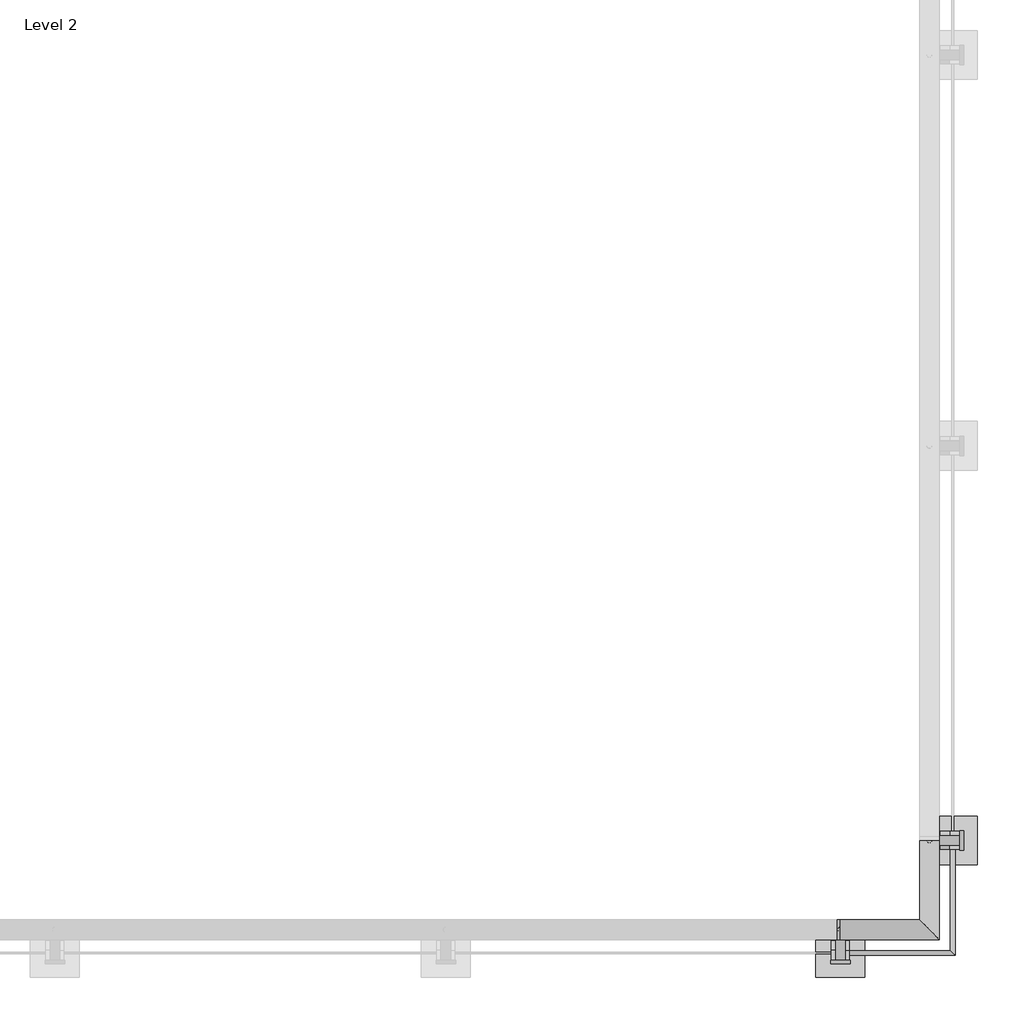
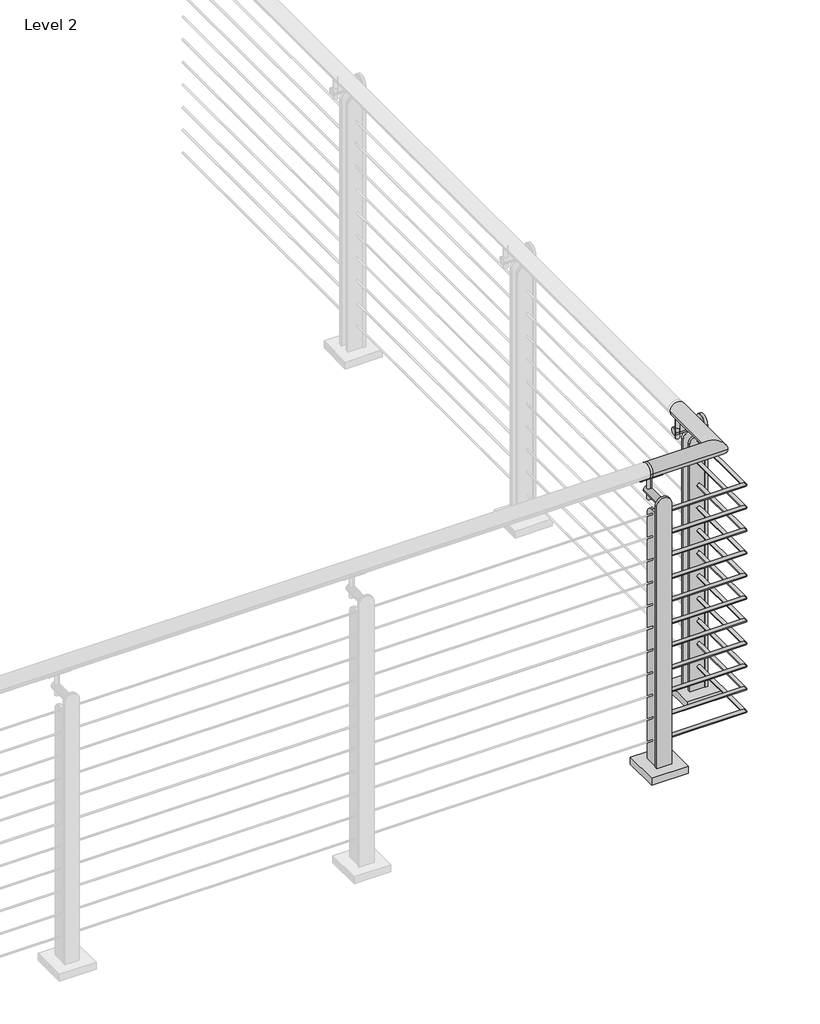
# One storey, part 6 of 12: 1 railing.
"""IFC4 building model written with IfcOpenShell, lengths in millimetres."""

from ifc_helpers import new_model, si_unit, point, frame, frame_2d, origin, place, context, project, spatial, polyline, circle_curve, ellipse_curve, trimmed, segment, composite_curve, outline, extrude, element, save
from ifc_brep_helpers import plane_surface, cylinder_surface, advanced_brep

model = new_model("IFC4")

# Units and contexts
model_context = context("Model", 3, world=origin())
ifc_project = project(units=[si_unit("LENGTHUNIT", "METRE", prefix="MILLI")], contexts=[model_context])

# Site, building, storey
site = spatial("IfcSite", under=ifc_project)
building = spatial("IfcBuilding", under=site)
storey = spatial("IfcBuildingStorey", under=building, Name="Level 2", Elevation=3048.0)

# Railing
placement = place(None, origin())
element("IfcRailing", 1, ObjectType="VIVA-TEE-Cable-Floor Mount-Corner", at=placement, inside=storey, context=model_context, shape_type="SolidModel", body=[
    advanced_brep(
    [(-4183.8021474, -35418.856782, 4102.1), (-4183.8021474, -35469.656782, 4102.1), (-3926.6271474, -35469.656782, 4102.1), (-3977.4271474, -35418.856782, 4102.1), (-4193.5313409, -35469.656782, 4102.1), (-4193.5313409, -35418.856782, 4102.1), (-3926.6271474, -35212.481782, 4102.1), (-3977.4271474, -35212.481782, 4102.1)],
    [
        (0, 1, circle_curve(frame((-4183.8021474, -35444.256782, 4102.1), z_axis=(1.0, 0.0, 0.0), x_axis=(0.0, 1.0, 0.0)), 25.4)),
        (1, 2),
        (2, 3, ellipse_curve(frame((-3952.0271474, -35444.256782, 4102.1), z_axis=(-0.7071067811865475, -0.7071067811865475, 0.0), x_axis=(-0.7071067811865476, 0.7071067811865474, 0.0)), 35.9210245, 25.4)),
        (3, 0),
        (1, 0, circle_curve(frame((-4183.8021474, -35444.256782, 4102.1), z_axis=(1.0, 0.0, 0.0), x_axis=(0.0, 1.0, 0.0)), 25.4)),
        (3, 2, ellipse_curve(frame((-3952.0271474, -35444.256782, 4102.1), z_axis=(-0.7071067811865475, -0.7071067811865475, 0.0), x_axis=(-0.7071067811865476, 0.7071067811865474, 0.0)), 35.9210245, 25.4)),
        (4, 5, circle_curve(frame((-4193.5313409, -35444.256782, 4102.1), z_axis=(-1.0, 0.0, 0.0), x_axis=(0.0, 1.0, 0.0)), 25.4)),
        (5, 4, circle_curve(frame((-4193.5313409, -35444.256782, 4102.1), z_axis=(-1.0, 0.0, 0.0), x_axis=(0.0, 1.0, 0.0)), 25.4)),
        (4, 1),
        (0, 5),
        (6, 7, circle_curve(frame((-3952.0271474, -35212.481782, 4102.1), z_axis=(0.0, 1.0, 0.0), x_axis=(-1.0, 0.0, 0.0)), 25.4)),
        (7, 6, circle_curve(frame((-3952.0271474, -35212.481782, 4102.1), z_axis=(0.0, 1.0, 0.0), x_axis=(-1.0, 0.0, 0.0)), 25.4)),
        (2, 6),
        (7, 3),
    ],
    [
        cylinder_surface(frame((-4183.8021474, -35444.256782, 4102.1), z_axis=(-1.0, 0.0, 0.0), x_axis=(0.0, 1.0, 0.0)), 25.4),
        plane_surface(frame((-4193.5313409, -35444.256782, 4127.5), z_axis=(-1.0, 0.0, 0.0), x_axis=(0.0, 1.0, 0.0))),
        cylinder_surface(frame((-4193.5313409, -35444.256782, 4102.1), z_axis=(-1.0, 0.0, 0.0), x_axis=(0.0, 1.0, 0.0)), 25.4),
        plane_surface(frame((-3952.0271474, -35212.481782, 4127.5), z_axis=(0.0, 1.0, 0.0), x_axis=(0.0, 0.0, 1.0))),
        cylinder_surface(frame((-3952.0271474, -35444.256782, 4102.1), z_axis=(0.0, -1.0, 0.0), x_axis=(-1.0, 0.0, 0.0)), 25.4),
    ],
    [
        (0, [[1, 2, 3, 4]]),
        (0, [[5, -4, 6, -2]]),
        (1, [[7, 8]]),
        (2, [[-7, 9, -1, 10]]),
        (2, [[-8, -10, -5, -9]]),
        (3, [[11, 12]]),
        (4, [[-3, 13, -12, 14]]),
        (4, [[-6, -14, -11, -13]]),
    ],
),
    advanced_brep(
    [(-4183.8021474, -35498.231782, 3981.45), (-4183.8021474, -35510.931782, 3981.45), (-3898.0521474, -35498.231782, 3981.45), (-3885.3521474, -35510.931782, 3981.45), (-3898.0521474, -35212.481782, 3981.45), (-3885.3521474, -35212.481782, 3981.45)],
    [
        (0, 1, circle_curve(frame((-4183.8021474, -35504.581782, 3981.45), z_axis=(-1.0, 0.0, 0.0), x_axis=(0.0, -1.0, 0.0)), 6.35)),
        (1, 0, circle_curve(frame((-4183.8021474, -35504.581782, 3981.45), z_axis=(-1.0, 0.0, 0.0), x_axis=(0.0, -1.0, 0.0)), 6.35)),
        (0, 2),
        (2, 3, ellipse_curve(frame((-3891.7021474, -35504.581782, 3981.45), z_axis=(-0.7071067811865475, -0.7071067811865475, 0.0), x_axis=(-0.7071067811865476, 0.7071067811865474, 0.0)), 8.9802561, 6.35)),
        (3, 1),
        (3, 2, ellipse_curve(frame((-3891.7021474, -35504.581782, 3981.45), z_axis=(-0.7071067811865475, -0.7071067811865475, 0.0), x_axis=(-0.7071067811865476, 0.7071067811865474, 0.0)), 8.9802561, 6.35)),
        (4, 5, circle_curve(frame((-3891.7021474, -35212.481782, 3981.45), z_axis=(0.0, 1.0, 0.0), x_axis=(1.0, 0.0, 0.0)), 6.35)),
        (5, 4, circle_curve(frame((-3891.7021474, -35212.481782, 3981.45), z_axis=(0.0, 1.0, 0.0), x_axis=(1.0, 0.0, 0.0)), 6.35)),
        (2, 4),
        (5, 3),
    ],
    [
        plane_surface(frame((-4183.8021474, -35504.581782, 3987.8), z_axis=(-1.0, 0.0, 0.0), x_axis=(0.0, 1.0, 0.0))),
        cylinder_surface(frame((-4183.8021474, -35504.581782, 3981.45), z_axis=(-1.0, 0.0, 0.0), x_axis=(0.0, -1.0, 0.0)), 6.35),
        plane_surface(frame((-3891.7021474, -35212.481782, 3987.8), z_axis=(0.0, 1.0, 0.0), x_axis=(0.0, 0.0, 1.0))),
        cylinder_surface(frame((-3891.7021474, -35504.581782, 3981.45), z_axis=(0.0, -1.0, 0.0), x_axis=(1.0, 0.0, 0.0)), 6.35),
    ],
    [
        (0, [[1, 2]]),
        (1, [[-1, 3, 4, 5]]),
        (1, [[-2, -5, 6, -3]]),
        (2, [[7, 8]]),
        (3, [[-4, 9, -8, 10]]),
        (3, [[-6, -10, -7, -9]]),
    ],
),
    advanced_brep(
    [(-4183.8021474, -35498.231782, 3898.9), (-4183.8021474, -35510.931782, 3898.9), (-3898.0521474, -35498.231782, 3898.9), (-3885.3521474, -35510.931782, 3898.9), (-3898.0521474, -35212.481782, 3898.9), (-3885.3521474, -35212.481782, 3898.9)],
    [
        (0, 1, circle_curve(frame((-4183.8021474, -35504.581782, 3898.9), z_axis=(-1.0, 0.0, 0.0), x_axis=(0.0, -1.0, 0.0)), 6.35)),
        (1, 0, circle_curve(frame((-4183.8021474, -35504.581782, 3898.9), z_axis=(-1.0, 0.0, 0.0), x_axis=(0.0, -1.0, 0.0)), 6.35)),
        (0, 2),
        (2, 3, ellipse_curve(frame((-3891.7021474, -35504.581782, 3898.9), z_axis=(-0.7071067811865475, -0.7071067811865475, 0.0), x_axis=(-0.7071067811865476, 0.7071067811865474, 0.0)), 8.9802561, 6.35)),
        (3, 1),
        (3, 2, ellipse_curve(frame((-3891.7021474, -35504.581782, 3898.9), z_axis=(-0.7071067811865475, -0.7071067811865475, 0.0), x_axis=(-0.7071067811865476, 0.7071067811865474, 0.0)), 8.9802561, 6.35)),
        (4, 5, circle_curve(frame((-3891.7021474, -35212.481782, 3898.9), z_axis=(0.0, 1.0, 0.0), x_axis=(1.0, 0.0, 0.0)), 6.35)),
        (5, 4, circle_curve(frame((-3891.7021474, -35212.481782, 3898.9), z_axis=(0.0, 1.0, 0.0), x_axis=(1.0, 0.0, 0.0)), 6.35)),
        (2, 4),
        (5, 3),
    ],
    [
        plane_surface(frame((-4183.8021474, -35504.581782, 3905.25), z_axis=(-1.0, 0.0, 0.0), x_axis=(0.0, 1.0, 0.0))),
        cylinder_surface(frame((-4183.8021474, -35504.581782, 3898.9), z_axis=(-1.0, 0.0, 0.0), x_axis=(0.0, -1.0, 0.0)), 6.35),
        plane_surface(frame((-3891.7021474, -35212.481782, 3905.25), z_axis=(0.0, 1.0, 0.0), x_axis=(0.0, 0.0, 1.0))),
        cylinder_surface(frame((-3891.7021474, -35504.581782, 3898.9), z_axis=(0.0, -1.0, 0.0), x_axis=(1.0, 0.0, 0.0)), 6.35),
    ],
    [
        (0, [[1, 2]]),
        (1, [[-1, 3, 4, 5]]),
        (1, [[-2, -5, 6, -3]]),
        (2, [[7, 8]]),
        (3, [[-4, 9, -8, 10]]),
        (3, [[-6, -10, -7, -9]]),
    ],
),
    advanced_brep(
    [(-4183.8021474, -35498.231782, 3816.35), (-4183.8021474, -35510.931782, 3816.35), (-3898.0521474, -35498.231782, 3816.35), (-3885.3521474, -35510.931782, 3816.35), (-3898.0521474, -35212.481782, 3816.35), (-3885.3521474, -35212.481782, 3816.35)],
    [
        (0, 1, circle_curve(frame((-4183.8021474, -35504.581782, 3816.35), z_axis=(-1.0, 0.0, 0.0), x_axis=(0.0, -1.0, 0.0)), 6.35)),
        (1, 0, circle_curve(frame((-4183.8021474, -35504.581782, 3816.35), z_axis=(-1.0, 0.0, 0.0), x_axis=(0.0, -1.0, 0.0)), 6.35)),
        (0, 2),
        (2, 3, ellipse_curve(frame((-3891.7021474, -35504.581782, 3816.35), z_axis=(-0.7071067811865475, -0.7071067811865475, 0.0), x_axis=(-0.7071067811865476, 0.7071067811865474, 0.0)), 8.9802561, 6.35)),
        (3, 1),
        (3, 2, ellipse_curve(frame((-3891.7021474, -35504.581782, 3816.35), z_axis=(-0.7071067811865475, -0.7071067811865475, 0.0), x_axis=(-0.7071067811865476, 0.7071067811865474, 0.0)), 8.9802561, 6.35)),
        (4, 5, circle_curve(frame((-3891.7021474, -35212.481782, 3816.35), z_axis=(0.0, 1.0, 0.0), x_axis=(1.0, 0.0, 0.0)), 6.35)),
        (5, 4, circle_curve(frame((-3891.7021474, -35212.481782, 3816.35), z_axis=(0.0, 1.0, 0.0), x_axis=(1.0, 0.0, 0.0)), 6.35)),
        (2, 4),
        (5, 3),
    ],
    [
        plane_surface(frame((-4183.8021474, -35504.581782, 3822.7), z_axis=(-1.0, 0.0, 0.0), x_axis=(0.0, 1.0, 0.0))),
        cylinder_surface(frame((-4183.8021474, -35504.581782, 3816.35), z_axis=(-1.0, 0.0, 0.0), x_axis=(0.0, -1.0, 0.0)), 6.35),
        plane_surface(frame((-3891.7021474, -35212.481782, 3822.7), z_axis=(0.0, 1.0, 0.0), x_axis=(0.0, 0.0, 1.0))),
        cylinder_surface(frame((-3891.7021474, -35504.581782, 3816.35), z_axis=(0.0, -1.0, 0.0), x_axis=(1.0, 0.0, 0.0)), 6.35),
    ],
    [
        (0, [[1, 2]]),
        (1, [[-1, 3, 4, 5]]),
        (1, [[-2, -5, 6, -3]]),
        (2, [[7, 8]]),
        (3, [[-4, 9, -8, 10]]),
        (3, [[-6, -10, -7, -9]]),
    ],
),
    advanced_brep(
    [(-4183.8021474, -35498.231782, 3733.8), (-4183.8021474, -35510.931782, 3733.8), (-3898.0521474, -35498.231782, 3733.8), (-3885.3521474, -35510.931782, 3733.8), (-3898.0521474, -35212.481782, 3733.8), (-3885.3521474, -35212.481782, 3733.8)],
    [
        (0, 1, circle_curve(frame((-4183.8021474, -35504.581782, 3733.8), z_axis=(-1.0, 0.0, 0.0), x_axis=(0.0, -1.0, 0.0)), 6.35)),
        (1, 0, circle_curve(frame((-4183.8021474, -35504.581782, 3733.8), z_axis=(-1.0, 0.0, 0.0), x_axis=(0.0, -1.0, 0.0)), 6.35)),
        (0, 2),
        (2, 3, ellipse_curve(frame((-3891.7021474, -35504.581782, 3733.8), z_axis=(-0.7071067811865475, -0.7071067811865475, 0.0), x_axis=(-0.7071067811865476, 0.7071067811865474, 0.0)), 8.9802561, 6.35)),
        (3, 1),
        (3, 2, ellipse_curve(frame((-3891.7021474, -35504.581782, 3733.8), z_axis=(-0.7071067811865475, -0.7071067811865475, 0.0), x_axis=(-0.7071067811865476, 0.7071067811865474, 0.0)), 8.9802561, 6.35)),
        (4, 5, circle_curve(frame((-3891.7021474, -35212.481782, 3733.8), z_axis=(0.0, 1.0, 0.0), x_axis=(1.0, 0.0, 0.0)), 6.35)),
        (5, 4, circle_curve(frame((-3891.7021474, -35212.481782, 3733.8), z_axis=(0.0, 1.0, 0.0), x_axis=(1.0, 0.0, 0.0)), 6.35)),
        (2, 4),
        (5, 3),
    ],
    [
        plane_surface(frame((-4183.8021474, -35504.581782, 3740.15), z_axis=(-1.0, 0.0, 0.0), x_axis=(0.0, 1.0, 0.0))),
        cylinder_surface(frame((-4183.8021474, -35504.581782, 3733.8), z_axis=(-1.0, 0.0, 0.0), x_axis=(0.0, -1.0, 0.0)), 6.35),
        plane_surface(frame((-3891.7021474, -35212.481782, 3740.15), z_axis=(0.0, 1.0, 0.0), x_axis=(0.0, 0.0, 1.0))),
        cylinder_surface(frame((-3891.7021474, -35504.581782, 3733.8), z_axis=(0.0, -1.0, 0.0), x_axis=(1.0, 0.0, 0.0)), 6.35),
    ],
    [
        (0, [[1, 2]]),
        (1, [[-1, 3, 4, 5]]),
        (1, [[-2, -5, 6, -3]]),
        (2, [[7, 8]]),
        (3, [[-4, 9, -8, 10]]),
        (3, [[-6, -10, -7, -9]]),
    ],
),
    advanced_brep(
    [(-4183.8021474, -35498.231782, 3651.25), (-4183.8021474, -35510.931782, 3651.25), (-3898.0521474, -35498.231782, 3651.25), (-3885.3521474, -35510.931782, 3651.25), (-3898.0521474, -35212.481782, 3651.25), (-3885.3521474, -35212.481782, 3651.25)],
    [
        (0, 1, circle_curve(frame((-4183.8021474, -35504.581782, 3651.25), z_axis=(-1.0, 0.0, 0.0), x_axis=(0.0, -1.0, 0.0)), 6.35)),
        (1, 0, circle_curve(frame((-4183.8021474, -35504.581782, 3651.25), z_axis=(-1.0, 0.0, 0.0), x_axis=(0.0, -1.0, 0.0)), 6.35)),
        (0, 2),
        (2, 3, ellipse_curve(frame((-3891.7021474, -35504.581782, 3651.25), z_axis=(-0.7071067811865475, -0.7071067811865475, 0.0), x_axis=(-0.7071067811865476, 0.7071067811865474, 0.0)), 8.9802561, 6.35)),
        (3, 1),
        (3, 2, ellipse_curve(frame((-3891.7021474, -35504.581782, 3651.25), z_axis=(-0.7071067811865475, -0.7071067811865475, 0.0), x_axis=(-0.7071067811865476, 0.7071067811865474, 0.0)), 8.9802561, 6.35)),
        (4, 5, circle_curve(frame((-3891.7021474, -35212.481782, 3651.25), z_axis=(0.0, 1.0, 0.0), x_axis=(1.0, 0.0, 0.0)), 6.35)),
        (5, 4, circle_curve(frame((-3891.7021474, -35212.481782, 3651.25), z_axis=(0.0, 1.0, 0.0), x_axis=(1.0, 0.0, 0.0)), 6.35)),
        (2, 4),
        (5, 3),
    ],
    [
        plane_surface(frame((-4183.8021474, -35504.581782, 3657.6), z_axis=(-1.0, 0.0, 0.0), x_axis=(0.0, 1.0, 0.0))),
        cylinder_surface(frame((-4183.8021474, -35504.581782, 3651.25), z_axis=(-1.0, 0.0, 0.0), x_axis=(0.0, -1.0, 0.0)), 6.35),
        plane_surface(frame((-3891.7021474, -35212.481782, 3657.6), z_axis=(0.0, 1.0, 0.0), x_axis=(0.0, 0.0, 1.0))),
        cylinder_surface(frame((-3891.7021474, -35504.581782, 3651.25), z_axis=(0.0, -1.0, 0.0), x_axis=(1.0, 0.0, 0.0)), 6.35),
    ],
    [
        (0, [[1, 2]]),
        (1, [[-1, 3, 4, 5]]),
        (1, [[-2, -5, 6, -3]]),
        (2, [[7, 8]]),
        (3, [[-4, 9, -8, 10]]),
        (3, [[-6, -10, -7, -9]]),
    ],
),
    advanced_brep(
    [(-4183.8021474, -35498.231782, 3568.7), (-4183.8021474, -35510.931782, 3568.7), (-3898.0521474, -35498.231782, 3568.7), (-3885.3521474, -35510.931782, 3568.7), (-3898.0521474, -35212.481782, 3568.7), (-3885.3521474, -35212.481782, 3568.7)],
    [
        (0, 1, circle_curve(frame((-4183.8021474, -35504.581782, 3568.7), z_axis=(-1.0, 0.0, 0.0), x_axis=(0.0, -1.0, 0.0)), 6.35)),
        (1, 0, circle_curve(frame((-4183.8021474, -35504.581782, 3568.7), z_axis=(-1.0, 0.0, 0.0), x_axis=(0.0, -1.0, 0.0)), 6.35)),
        (0, 2),
        (2, 3, ellipse_curve(frame((-3891.7021474, -35504.581782, 3568.7), z_axis=(-0.7071067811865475, -0.7071067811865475, 0.0), x_axis=(-0.7071067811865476, 0.7071067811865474, 0.0)), 8.9802561, 6.35)),
        (3, 1),
        (3, 2, ellipse_curve(frame((-3891.7021474, -35504.581782, 3568.7), z_axis=(-0.7071067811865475, -0.7071067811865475, 0.0), x_axis=(-0.7071067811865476, 0.7071067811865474, 0.0)), 8.9802561, 6.35)),
        (4, 5, circle_curve(frame((-3891.7021474, -35212.481782, 3568.7), z_axis=(0.0, 1.0, 0.0), x_axis=(1.0, 0.0, 0.0)), 6.35)),
        (5, 4, circle_curve(frame((-3891.7021474, -35212.481782, 3568.7), z_axis=(0.0, 1.0, 0.0), x_axis=(1.0, 0.0, 0.0)), 6.35)),
        (2, 4),
        (5, 3),
    ],
    [
        plane_surface(frame((-4183.8021474, -35504.581782, 3575.05), z_axis=(-1.0, 0.0, 0.0), x_axis=(0.0, 1.0, 0.0))),
        cylinder_surface(frame((-4183.8021474, -35504.581782, 3568.7), z_axis=(-1.0, 0.0, 0.0), x_axis=(0.0, -1.0, 0.0)), 6.35),
        plane_surface(frame((-3891.7021474, -35212.481782, 3575.05), z_axis=(0.0, 1.0, 0.0), x_axis=(0.0, 0.0, 1.0))),
        cylinder_surface(frame((-3891.7021474, -35504.581782, 3568.7), z_axis=(0.0, -1.0, 0.0), x_axis=(1.0, 0.0, 0.0)), 6.35),
    ],
    [
        (0, [[1, 2]]),
        (1, [[-1, 3, 4, 5]]),
        (1, [[-2, -5, 6, -3]]),
        (2, [[7, 8]]),
        (3, [[-4, 9, -8, 10]]),
        (3, [[-6, -10, -7, -9]]),
    ],
),
    advanced_brep(
    [(-4183.8021474, -35498.231782, 3486.15), (-4183.8021474, -35510.931782, 3486.15), (-3898.0521474, -35498.231782, 3486.15), (-3885.3521474, -35510.931782, 3486.15), (-3898.0521474, -35212.481782, 3486.15), (-3885.3521474, -35212.481782, 3486.15)],
    [
        (0, 1, circle_curve(frame((-4183.8021474, -35504.581782, 3486.15), z_axis=(-1.0, 0.0, 0.0), x_axis=(0.0, -1.0, 0.0)), 6.35)),
        (1, 0, circle_curve(frame((-4183.8021474, -35504.581782, 3486.15), z_axis=(-1.0, 0.0, 0.0), x_axis=(0.0, -1.0, 0.0)), 6.35)),
        (0, 2),
        (2, 3, ellipse_curve(frame((-3891.7021474, -35504.581782, 3486.15), z_axis=(-0.7071067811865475, -0.7071067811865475, 0.0), x_axis=(-0.7071067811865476, 0.7071067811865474, 0.0)), 8.9802561, 6.35)),
        (3, 1),
        (3, 2, ellipse_curve(frame((-3891.7021474, -35504.581782, 3486.15), z_axis=(-0.7071067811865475, -0.7071067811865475, 0.0), x_axis=(-0.7071067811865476, 0.7071067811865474, 0.0)), 8.9802561, 6.35)),
        (4, 5, circle_curve(frame((-3891.7021474, -35212.481782, 3486.15), z_axis=(0.0, 1.0, 0.0), x_axis=(1.0, 0.0, 0.0)), 6.35)),
        (5, 4, circle_curve(frame((-3891.7021474, -35212.481782, 3486.15), z_axis=(0.0, 1.0, 0.0), x_axis=(1.0, 0.0, 0.0)), 6.35)),
        (2, 4),
        (5, 3),
    ],
    [
        plane_surface(frame((-4183.8021474, -35504.581782, 3492.5), z_axis=(-1.0, 0.0, 0.0), x_axis=(0.0, 1.0, 0.0))),
        cylinder_surface(frame((-4183.8021474, -35504.581782, 3486.15), z_axis=(-1.0, 0.0, 0.0), x_axis=(0.0, -1.0, 0.0)), 6.35),
        plane_surface(frame((-3891.7021474, -35212.481782, 3492.5), z_axis=(0.0, 1.0, 0.0), x_axis=(0.0, 0.0, 1.0))),
        cylinder_surface(frame((-3891.7021474, -35504.581782, 3486.15), z_axis=(0.0, -1.0, 0.0), x_axis=(1.0, 0.0, 0.0)), 6.35),
    ],
    [
        (0, [[1, 2]]),
        (1, [[-1, 3, 4, 5]]),
        (1, [[-2, -5, 6, -3]]),
        (2, [[7, 8]]),
        (3, [[-4, 9, -8, 10]]),
        (3, [[-6, -10, -7, -9]]),
    ],
),
    advanced_brep(
    [(-4183.8021474, -35498.231782, 3403.6), (-4183.8021474, -35510.931782, 3403.6), (-3898.0521474, -35498.231782, 3403.6), (-3885.3521474, -35510.931782, 3403.6), (-3898.0521474, -35212.481782, 3403.6), (-3885.3521474, -35212.481782, 3403.6)],
    [
        (0, 1, circle_curve(frame((-4183.8021474, -35504.581782, 3403.6), z_axis=(-1.0, 0.0, 0.0), x_axis=(0.0, -1.0, 0.0)), 6.35)),
        (1, 0, circle_curve(frame((-4183.8021474, -35504.581782, 3403.6), z_axis=(-1.0, 0.0, 0.0), x_axis=(0.0, -1.0, 0.0)), 6.35)),
        (0, 2),
        (2, 3, ellipse_curve(frame((-3891.7021474, -35504.581782, 3403.6), z_axis=(-0.7071067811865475, -0.7071067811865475, 0.0), x_axis=(-0.7071067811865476, 0.7071067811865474, 0.0)), 8.9802561, 6.35)),
        (3, 1),
        (3, 2, ellipse_curve(frame((-3891.7021474, -35504.581782, 3403.6), z_axis=(-0.7071067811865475, -0.7071067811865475, 0.0), x_axis=(-0.7071067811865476, 0.7071067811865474, 0.0)), 8.9802561, 6.35)),
        (4, 5, circle_curve(frame((-3891.7021474, -35212.481782, 3403.6), z_axis=(0.0, 1.0, 0.0), x_axis=(1.0, 0.0, 0.0)), 6.35)),
        (5, 4, circle_curve(frame((-3891.7021474, -35212.481782, 3403.6), z_axis=(0.0, 1.0, 0.0), x_axis=(1.0, 0.0, 0.0)), 6.35)),
        (2, 4),
        (5, 3),
    ],
    [
        plane_surface(frame((-4183.8021474, -35504.581782, 3409.95), z_axis=(-1.0, 0.0, 0.0), x_axis=(0.0, 1.0, 0.0))),
        cylinder_surface(frame((-4183.8021474, -35504.581782, 3403.6), z_axis=(-1.0, 0.0, 0.0), x_axis=(0.0, -1.0, 0.0)), 6.35),
        plane_surface(frame((-3891.7021474, -35212.481782, 3409.95), z_axis=(0.0, 1.0, 0.0), x_axis=(0.0, 0.0, 1.0))),
        cylinder_surface(frame((-3891.7021474, -35504.581782, 3403.6), z_axis=(0.0, -1.0, 0.0), x_axis=(1.0, 0.0, 0.0)), 6.35),
    ],
    [
        (0, [[1, 2]]),
        (1, [[-1, 3, 4, 5]]),
        (1, [[-2, -5, 6, -3]]),
        (2, [[7, 8]]),
        (3, [[-4, 9, -8, 10]]),
        (3, [[-6, -10, -7, -9]]),
    ],
),
    advanced_brep(
    [(-4183.8021474, -35498.231782, 3321.05), (-4183.8021474, -35510.931782, 3321.05), (-3898.0521474, -35498.231782, 3321.05), (-3885.3521474, -35510.931782, 3321.05), (-3898.0521474, -35212.481782, 3321.05), (-3885.3521474, -35212.481782, 3321.05)],
    [
        (0, 1, circle_curve(frame((-4183.8021474, -35504.581782, 3321.05), z_axis=(-1.0, 0.0, 0.0), x_axis=(0.0, -1.0, 0.0)), 6.35)),
        (1, 0, circle_curve(frame((-4183.8021474, -35504.581782, 3321.05), z_axis=(-1.0, 0.0, 0.0), x_axis=(0.0, -1.0, 0.0)), 6.35)),
        (0, 2),
        (2, 3, ellipse_curve(frame((-3891.7021474, -35504.581782, 3321.05), z_axis=(-0.7071067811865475, -0.7071067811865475, 0.0), x_axis=(-0.7071067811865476, 0.7071067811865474, 0.0)), 8.9802561, 6.35)),
        (3, 1),
        (3, 2, ellipse_curve(frame((-3891.7021474, -35504.581782, 3321.05), z_axis=(-0.7071067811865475, -0.7071067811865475, 0.0), x_axis=(-0.7071067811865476, 0.7071067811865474, 0.0)), 8.9802561, 6.35)),
        (4, 5, circle_curve(frame((-3891.7021474, -35212.481782, 3321.05), z_axis=(0.0, 1.0, 0.0), x_axis=(1.0, 0.0, 0.0)), 6.35)),
        (5, 4, circle_curve(frame((-3891.7021474, -35212.481782, 3321.05), z_axis=(0.0, 1.0, 0.0), x_axis=(1.0, 0.0, 0.0)), 6.35)),
        (2, 4),
        (5, 3),
    ],
    [
        plane_surface(frame((-4183.8021474, -35504.581782, 3327.4), z_axis=(-1.0, 0.0, 0.0), x_axis=(0.0, 1.0, 0.0))),
        cylinder_surface(frame((-4183.8021474, -35504.581782, 3321.05), z_axis=(-1.0, 0.0, 0.0), x_axis=(0.0, -1.0, 0.0)), 6.35),
        plane_surface(frame((-3891.7021474, -35212.481782, 3327.4), z_axis=(0.0, 1.0, 0.0), x_axis=(0.0, 0.0, 1.0))),
        cylinder_surface(frame((-3891.7021474, -35504.581782, 3321.05), z_axis=(0.0, -1.0, 0.0), x_axis=(1.0, 0.0, 0.0)), 6.35),
    ],
    [
        (0, [[1, 2]]),
        (1, [[-1, 3, 4, 5]]),
        (1, [[-2, -5, 6, -3]]),
        (2, [[7, 8]]),
        (3, [[-4, 9, -8, 10]]),
        (3, [[-6, -10, -7, -9]]),
    ],
),
    advanced_brep(
    [(-4183.8021474, -35498.231782, 3238.5), (-4183.8021474, -35510.931782, 3238.5), (-3898.0521474, -35498.231782, 3238.5), (-3885.3521474, -35510.931782, 3238.5), (-3898.0521474, -35212.481782, 3238.5), (-3885.3521474, -35212.481782, 3238.5)],
    [
        (0, 1, circle_curve(frame((-4183.8021474, -35504.581782, 3238.5), z_axis=(-1.0, 0.0, 0.0), x_axis=(0.0, -1.0, 0.0)), 6.35)),
        (1, 0, circle_curve(frame((-4183.8021474, -35504.581782, 3238.5), z_axis=(-1.0, 0.0, 0.0), x_axis=(0.0, -1.0, 0.0)), 6.35)),
        (0, 2),
        (2, 3, ellipse_curve(frame((-3891.7021474, -35504.581782, 3238.5), z_axis=(-0.7071067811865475, -0.7071067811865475, 0.0), x_axis=(-0.7071067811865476, 0.7071067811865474, 0.0)), 8.9802561, 6.35)),
        (3, 1),
        (3, 2, ellipse_curve(frame((-3891.7021474, -35504.581782, 3238.5), z_axis=(-0.7071067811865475, -0.7071067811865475, 0.0), x_axis=(-0.7071067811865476, 0.7071067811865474, 0.0)), 8.9802561, 6.35)),
        (4, 5, circle_curve(frame((-3891.7021474, -35212.481782, 3238.5), z_axis=(0.0, 1.0, 0.0), x_axis=(1.0, 0.0, 0.0)), 6.35)),
        (5, 4, circle_curve(frame((-3891.7021474, -35212.481782, 3238.5), z_axis=(0.0, 1.0, 0.0), x_axis=(1.0, 0.0, 0.0)), 6.35)),
        (2, 4),
        (5, 3),
    ],
    [
        plane_surface(frame((-4183.8021474, -35504.581782, 3244.85), z_axis=(-1.0, 0.0, 0.0), x_axis=(0.0, 1.0, 0.0))),
        cylinder_surface(frame((-4183.8021474, -35504.581782, 3238.5), z_axis=(-1.0, 0.0, 0.0), x_axis=(0.0, -1.0, 0.0)), 6.35),
        plane_surface(frame((-3891.7021474, -35212.481782, 3244.85), z_axis=(0.0, 1.0, 0.0), x_axis=(0.0, 0.0, 1.0))),
        cylinder_surface(frame((-3891.7021474, -35504.581782, 3238.5), z_axis=(0.0, -1.0, 0.0), x_axis=(1.0, 0.0, 0.0)), 6.35),
    ],
    [
        (0, [[1, 2]]),
        (1, [[-1, 3, 4, 5]]),
        (1, [[-2, -5, 6, -3]]),
        (2, [[7, 8]]),
        (3, [[-4, 9, -8, 10]]),
        (3, [[-6, -10, -7, -9]]),
    ],
),
    advanced_brep(
    [(-4183.8021474, -35498.231782, 3155.95), (-4183.8021474, -35510.931782, 3155.95), (-3898.0521474, -35498.231782, 3155.95), (-3885.3521474, -35510.931782, 3155.95), (-3898.0521474, -35212.481782, 3155.95), (-3885.3521474, -35212.481782, 3155.95)],
    [
        (0, 1, circle_curve(frame((-4183.8021474, -35504.581782, 3155.95), z_axis=(-1.0, 0.0, 0.0), x_axis=(0.0, -1.0, 0.0)), 6.35)),
        (1, 0, circle_curve(frame((-4183.8021474, -35504.581782, 3155.95), z_axis=(-1.0, 0.0, 0.0), x_axis=(0.0, -1.0, 0.0)), 6.35)),
        (0, 2),
        (2, 3, ellipse_curve(frame((-3891.7021474, -35504.581782, 3155.95), z_axis=(-0.7071067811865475, -0.7071067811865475, 0.0), x_axis=(-0.7071067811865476, 0.7071067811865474, 0.0)), 8.9802561, 6.35)),
        (3, 1),
        (3, 2, ellipse_curve(frame((-3891.7021474, -35504.581782, 3155.95), z_axis=(-0.7071067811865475, -0.7071067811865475, 0.0), x_axis=(-0.7071067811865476, 0.7071067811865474, 0.0)), 8.9802561, 6.35)),
        (4, 5, circle_curve(frame((-3891.7021474, -35212.481782, 3155.95), z_axis=(0.0, 1.0, 0.0), x_axis=(1.0, 0.0, 0.0)), 6.35)),
        (5, 4, circle_curve(frame((-3891.7021474, -35212.481782, 3155.95), z_axis=(0.0, 1.0, 0.0), x_axis=(1.0, 0.0, 0.0)), 6.35)),
        (2, 4),
        (5, 3),
    ],
    [
        plane_surface(frame((-4183.8021474, -35504.581782, 3162.3), z_axis=(-1.0, 0.0, 0.0), x_axis=(0.0, 1.0, 0.0))),
        cylinder_surface(frame((-4183.8021474, -35504.581782, 3155.95), z_axis=(-1.0, 0.0, 0.0), x_axis=(0.0, -1.0, 0.0)), 6.35),
        plane_surface(frame((-3891.7021474, -35212.481782, 3162.3), z_axis=(0.0, 1.0, 0.0), x_axis=(0.0, 0.0, 1.0))),
        cylinder_surface(frame((-3891.7021474, -35504.581782, 3155.95), z_axis=(0.0, -1.0, 0.0), x_axis=(1.0, 0.0, 0.0)), 6.35),
    ],
    [
        (0, [[1, 2]]),
        (1, [[-1, 3, 4, 5]]),
        (1, [[-2, -5, 6, -3]]),
        (2, [[7, 8]]),
        (3, [[-4, 9, -8, 10]]),
        (3, [[-6, -10, -7, -9]]),
    ],
),
    extrude(outline(composite_curve([segment(trimmed(circle_curve(frame_2d((0.0, 7.0)), 7.0), [point((0.0, 14.0))], [point((0.0, 0.0))], False, "CARTESIAN"), True, "CONTINUOUS"), segment(trimmed(circle_curve(frame_2d((0.0, 7.0)), 7.0), [point((0.0, 0.0))], [point((0.0, 14.0))], False, "CARTESIAN"), True, "CONTINUOUS")], self_intersect=False)), frame((-3945.3172937, -35212.4080721, 3997.1832524), z_axis=(0.0, 0.004253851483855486, 0.9999909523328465), x_axis=(0.0, 0.9999909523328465, -0.004253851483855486)), (0.0, 0.0, 1.0), 75.97),
    extrude(outline(composite_curve([segment(trimmed(circle_curve(frame_2d((4095.2025651, -3952.4586977)), 19.05), [point((4081.7916463, -3938.9291094))], [point((4081.7916463, -3965.9882859))], True, "CARTESIAN"), True, "CONTINUOUS"), segment(polyline([(4081.7916463, -3965.9882859), (4080.7742593, -3967.0146755)]), True, "CONTINUOUS"), segment(trimmed(circle_curve(frame_2d((4079.7089374, -3965.9586977)), 1.5), [point((4080.7742593, -3967.0146755))], [point((4078.5780156, -3966.9440991))], False, "CARTESIAN"), True, "CONTINUOUS"), segment(trimmed(circle_curve(frame_2d((4095.2025651, -3952.4586977)), 22.05), [point((4078.5780156, -3966.9440991))], [point((4078.5780156, -3937.9732962))], False, "CARTESIAN"), True, "CONTINUOUS"), segment(trimmed(circle_curve(frame_2d((4079.7089374, -3938.9586977)), 1.5), [point((4078.5780156, -3937.9732962))], [point((4080.7742593, -3937.9027198))], False, "CARTESIAN"), True, "CONTINUOUS"), segment(polyline([(4080.7742593, -3937.9027198), (4081.7916463, -3938.9291094)]), True, "CONTINUOUS")], self_intersect=False)), frame((0.0, -35247.9465463, 0.0), z_axis=(0.0, 1.0, 0.0), x_axis=(0.0, 0.0, 1.0)), (0.0, 0.0, 1.0), 74.5229187),
    extrude(outline(composite_curve([segment(trimmed(circle_curve(frame_2d((-35212.2037416, 4024.1259188)), 12.5), [point((-35224.7037416, 4024.1259188))], [point((-35199.7037416, 4024.1259188))], False, "CARTESIAN"), True, "CONTINUOUS"), segment(trimmed(circle_curve(frame_2d((-35212.2037416, 4024.1259188)), 12.5), [point((-35199.7037416, 4024.1259188))], [point((-35224.7037416, 4024.1259188))], False, "CARTESIAN"), True, "CONTINUOUS")], self_intersect=False)), frame((-3964.9743077, 0.0, 0.0), z_axis=(1.0, 0.0, 0.0), x_axis=(0.0, 1.0, 0.0)), (0.0, 0.0, 1.0), 92.423),
    extrude(outline(polyline([(-3955.2021474, -35148.584907), (-3828.2021474, -35148.584907), (-3828.2021474, -35275.584907), (-3955.2021474, -35275.584907), (-3955.2021474, -35148.584907)])), frame((0.0, 0.0, 3048.0), z_axis=(0.0, 0.0, 1.0), x_axis=(1.0, 0.0, 0.0)), (0.0, 0.0, 1.0), 25.4),
    extrude(outline(composite_curve([segment(trimmed(circle_curve(frame_2d((3972.2425, -3898.717599)), 24.765), [point((3997.0075, -3898.717599))], [point((3972.2425, -3923.482599))], False, "CARTESIAN"), True, "CONTINUOUS"), segment(polyline([(3972.2425, -3923.482599), (3073.4, -3923.482599), (3073.4, -3872.6521474), (3997.0075, -3872.6521474), (3997.0075, -3898.717599)]), True, "CONTINUOUS")], self_intersect=False)), frame((0.0, -35198.0814074, 0.0), z_axis=(0.0, 1.0, 0.0), x_axis=(0.0, 0.0, 1.0)), (0.0, 0.0, 1.0), 9.525),
    extrude(outline(composite_curve([segment(polyline([(-35186.684907, 3073.4), (-35237.484907, 3073.4), (-35237.484907, 4027.17)]), True, "CONTINUOUS"), segment(trimmed(circle_curve(frame_2d((-35212.084907, 4027.17)), 25.4), [point((-35237.484907, 4027.17))], [point((-35186.684907, 4027.17))], False, "CARTESIAN"), True, "CONTINUOUS"), segment(polyline([(-35186.684907, 4027.17), (-35186.684907, 3073.4)]), True, "CONTINUOUS")], self_intersect=False)), frame((-3872.6521474, 0.0, 0.0), z_axis=(1.0, 0.0, 0.0), x_axis=(0.0, 1.0, 0.0)), (0.0, 0.0, 1.0), 9.525),
    extrude(outline(composite_curve([segment(trimmed(circle_curve(frame_2d((3972.2425, -3898.717599)), 24.765), [point((3997.0075, -3898.717599))], [point((3972.2425, -3923.482599))], False, "CARTESIAN"), True, "CONTINUOUS"), segment(polyline([(3972.2425, -3923.482599), (3073.4, -3923.482599), (3073.4, -3872.6521474), (3997.0075, -3872.6521474), (3997.0075, -3898.717599)]), True, "CONTINUOUS")], self_intersect=False)), frame((0.0, -35235.6134066, 0.0), z_axis=(0.0, 1.0, 0.0), x_axis=(0.0, 0.0, 1.0)), (0.0, 0.0, 1.0), 9.525),
    extrude(outline(composite_curve([segment(trimmed(circle_curve(frame_2d((0.0, 7.0)), 7.0), [point((0.0, 14.0))], [point((0.0, 0.0))], False, "CARTESIAN"), True, "CONTINUOUS"), segment(trimmed(circle_curve(frame_2d((0.0, 7.0)), 7.0), [point((0.0, 0.0))], [point((0.0, 14.0))], False, "CARTESIAN"), True, "CONTINUOUS")], self_intersect=False)), frame((-4183.7284375, -35450.9666358, 3997.1832524), z_axis=(0.004253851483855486, 0.0, 0.9999909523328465), x_axis=(0.9999909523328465, 0.0, -0.004253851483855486)), (0.0, 0.0, 1.0), 75.97),
    extrude(outline(composite_curve([segment(trimmed(circle_curve(frame_2d((-35443.8252317, 4095.2025651)), 19.05), [point((-35457.35482, 4081.7916463))], [point((-35430.2956435, 4081.7916463))], True, "CARTESIAN"), True, "CONTINUOUS"), segment(polyline([(-35430.2956435, 4081.7916463), (-35429.2692539, 4080.7742593)]), True, "CONTINUOUS"), segment(trimmed(circle_curve(frame_2d((-35430.3252317, 4079.7089374)), 1.5), [point((-35429.2692539, 4080.7742593))], [point((-35429.3398303, 4078.5780156))], False, "CARTESIAN"), True, "CONTINUOUS"), segment(trimmed(circle_curve(frame_2d((-35443.8252317, 4095.2025651)), 22.05), [point((-35429.3398303, 4078.5780156))], [point((-35458.3106332, 4078.5780156))], False, "CARTESIAN"), True, "CONTINUOUS"), segment(trimmed(circle_curve(frame_2d((-35457.3252317, 4079.7089374)), 1.5), [point((-35458.3106332, 4078.5780156))], [point((-35458.3812096, 4080.7742593))], False, "CARTESIAN"), True, "CONTINUOUS"), segment(polyline([(-35458.3812096, 4080.7742593), (-35457.35482, 4081.7916463)]), True, "CONTINUOUS")], self_intersect=False)), frame((-4219.2669117, 0.0, 0.0), z_axis=(1.0, 0.0, 0.0), x_axis=(0.0, 1.0, 0.0)), (0.0, 0.0, 1.0), 74.5229187),
    extrude(outline(composite_curve([segment(trimmed(circle_curve(frame_2d((4024.1259188, -4183.5241071)), 12.5), [point((4024.1259188, -4196.0241071))], [point((4024.1259188, -4171.0241071))], False, "CARTESIAN"), True, "CONTINUOUS"), segment(trimmed(circle_curve(frame_2d((4024.1259188, -4183.5241071)), 12.5), [point((4024.1259188, -4171.0241071))], [point((4024.1259188, -4196.0241071))], False, "CARTESIAN"), True, "CONTINUOUS")], self_intersect=False)), frame((0.0, -35523.7326217, 0.0), z_axis=(0.0, 1.0, 0.0), x_axis=(0.0, 0.0, 1.0)), (0.0, 0.0, 1.0), 92.423),
    extrude(outline(polyline([(-4119.9052724, -35441.081782), (-4119.9052724, -35568.081782), (-4246.9052724, -35568.081782), (-4246.9052724, -35441.081782), (-4119.9052724, -35441.081782)])), frame((0.0, 0.0, 3048.0), z_axis=(0.0, 0.0, 1.0), x_axis=(1.0, 0.0, 0.0)), (0.0, 0.0, 1.0), 25.4),
    extrude(outline(composite_curve([segment(trimmed(circle_curve(frame_2d((-35497.5663305, 3972.2425)), 24.765), [point((-35497.5663305, 3997.0075))], [point((-35472.8013305, 3972.2425))], False, "CARTESIAN"), True, "CONTINUOUS"), segment(polyline([(-35472.8013305, 3972.2425), (-35472.8013305, 3073.4), (-35523.631782, 3073.4), (-35523.631782, 3997.0075), (-35497.5663305, 3997.0075)]), True, "CONTINUOUS")], self_intersect=False)), frame((-4169.4017729, 0.0, 0.0), z_axis=(1.0, 0.0, 0.0), x_axis=(0.0, 1.0, 0.0)), (0.0, 0.0, 1.0), 9.525),
    extrude(outline(composite_curve([segment(polyline([(3073.4, -4158.0052724), (4027.17, -4158.0052724)]), True, "CONTINUOUS"), segment(trimmed(circle_curve(frame_2d((4027.17, -4183.4052724)), 25.4), [point((4027.17, -4158.0052724))], [point((4027.17, -4208.8052724))], False, "CARTESIAN"), True, "CONTINUOUS"), segment(polyline([(4027.17, -4208.8052724), (3073.4, -4208.8052724), (3073.4, -4158.0052724)]), True, "CONTINUOUS")], self_intersect=False)), frame((0.0, -35533.156782, 0.0), z_axis=(0.0, 1.0, 0.0), x_axis=(0.0, 0.0, 1.0)), (0.0, 0.0, 1.0), 9.525),
    extrude(outline(composite_curve([segment(trimmed(circle_curve(frame_2d((-35497.5663305, 3972.2425)), 24.765), [point((-35497.5663305, 3997.0075))], [point((-35472.8013305, 3972.2425))], False, "CARTESIAN"), True, "CONTINUOUS"), segment(polyline([(-35472.8013305, 3972.2425), (-35472.8013305, 3073.4), (-35523.631782, 3073.4), (-35523.631782, 3997.0075), (-35497.5663305, 3997.0075)]), True, "CONTINUOUS")], self_intersect=False)), frame((-4206.933772, 0.0, 0.0), z_axis=(1.0, 0.0, 0.0), x_axis=(0.0, 1.0, 0.0)), (0.0, 0.0, 1.0), 9.525),
])

save(model, "model.ifc")
